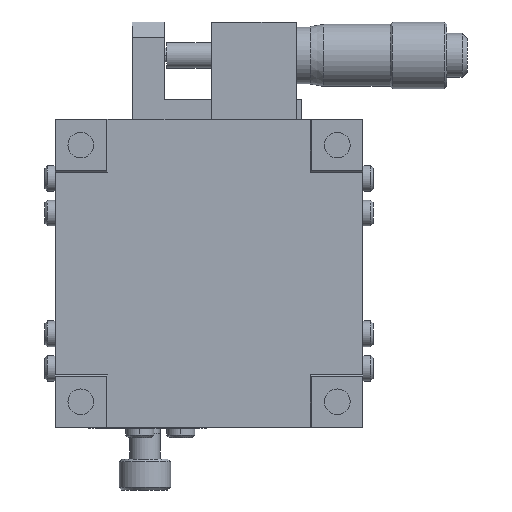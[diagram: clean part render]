
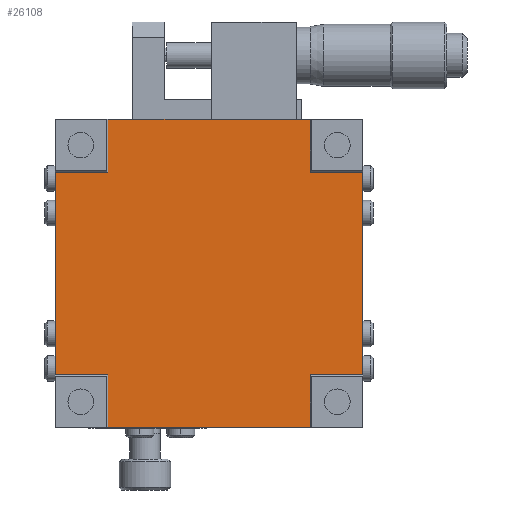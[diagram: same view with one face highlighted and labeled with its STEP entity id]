
A CAD part, front view. The second image highlights one B-rep face of the part: STEP entity #26108.
In plain terms, the highlighted planar face has unit normal (0, -1, 0).
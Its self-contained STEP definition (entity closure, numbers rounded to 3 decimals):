
#734 = DIRECTION ( 'NONE',  ( 0., 0., 1. ) ) ;
#735 = VECTOR ( 'NONE', #734, 1000. ) ;
#736 = CARTESIAN_POINT ( 'NONE',  ( -19.7, 0.3, -30. ) ) ;
#737 = LINE ( 'NONE', #736, #735 ) ;
#747 = CARTESIAN_POINT ( 'NONE',  ( -19.7, 0.3, -19.7 ) ) ;
#748 = CARTESIAN_POINT ( 'NONE',  ( 19.7, 0.3, -30. ) ) ;
#874 = DIRECTION ( 'NONE',  ( 0., 0., 1. ) ) ;
#875 = VECTOR ( 'NONE', #874, 1000. ) ;
#876 = CARTESIAN_POINT ( 'NONE',  ( 19.7, 0.3, -30. ) ) ;
#877 = LINE ( 'NONE', #876, #875 ) ;
#955 = CARTESIAN_POINT ( 'NONE',  ( 19.7, 0.3, 19.7 ) ) ;
#956 = CARTESIAN_POINT ( 'NONE',  ( 19.7, 0.3, 30. ) ) ;
#961 = DIRECTION ( 'NONE',  ( -1., 0., 0. ) ) ;
#962 = VECTOR ( 'NONE', #961, 1000. ) ;
#963 = CARTESIAN_POINT ( 'NONE',  ( 30., 0.3, -19.7 ) ) ;
#968 = LINE ( 'NONE', #963, #962 ) ;
#971 = CARTESIAN_POINT ( 'NONE',  ( -19.7, 0.3, 30. ) ) ;
#972 = CARTESIAN_POINT ( 'NONE',  ( -19.7, 0.3, 19.7 ) ) ;
#1007 = DIRECTION ( 'NONE',  ( 0., 0., 1. ) ) ;
#1008 = VECTOR ( 'NONE', #1007, 1000. ) ;
#1009 = CARTESIAN_POINT ( 'NONE',  ( -19.7, 0.3, -30. ) ) ;
#1010 = LINE ( 'NONE', #1009, #1008 ) ;
#1051 = DIRECTION ( 'NONE',  ( -1., 0., 0. ) ) ;
#1052 = VECTOR ( 'NONE', #1051, 1000. ) ;
#1053 = CARTESIAN_POINT ( 'NONE',  ( 30., 0.3, -19.7 ) ) ;
#1054 = LINE ( 'NONE', #1053, #1052 ) ;
#1057 = DIRECTION ( 'NONE',  ( -1., 0., 0. ) ) ;
#1059 = VECTOR ( 'NONE', #1057, 1000. ) ;
#1062 = CARTESIAN_POINT ( 'NONE',  ( 30., 0.3, 19.7 ) ) ;
#1063 = LINE ( 'NONE', #1062, #1059 ) ;
#1072 = DIRECTION ( 'NONE',  ( 0., 0., 1. ) ) ;
#1073 = VECTOR ( 'NONE', #1072, 1000. ) ;
#1074 = CARTESIAN_POINT ( 'NONE',  ( -30., 0.3, -49.335 ) ) ;
#1075 = LINE ( 'NONE', #1074, #1073 ) ;
#1177 = DIRECTION ( 'NONE',  ( 0., 0., 1. ) ) ;
#1179 = VECTOR ( 'NONE', #1177, 1000. ) ;
#1180 = CARTESIAN_POINT ( 'NONE',  ( 19.7, 0.3, -30. ) ) ;
#1181 = LINE ( 'NONE', #1180, #1179 ) ;
#1201 = DIRECTION ( 'NONE',  ( -1., 0., 0. ) ) ;
#1202 = VECTOR ( 'NONE', #1201, 1000. ) ;
#1203 = CARTESIAN_POINT ( 'NONE',  ( 30., 0.3, 19.7 ) ) ;
#1205 = LINE ( 'NONE', #1203, #1202 ) ;
#1254 = CARTESIAN_POINT ( 'NONE',  ( 19.7, 0.3, -19.7 ) ) ;
#1321 = CARTESIAN_POINT ( 'NONE',  ( -19.7, 0.3, -30. ) ) ;
#1648 = DIRECTION ( 'NONE',  ( -1., 0., 0. ) ) ;
#1649 = VECTOR ( 'NONE', #1648, 1000. ) ;
#1651 = CARTESIAN_POINT ( 'NONE',  ( 19.7, 0.3, 30. ) ) ;
#1653 = LINE ( 'NONE', #1651, #1649 ) ;
#1665 = DIRECTION ( 'NONE',  ( -1., 0., 0. ) ) ;
#1666 = VECTOR ( 'NONE', #1665, 1000. ) ;
#1667 = CARTESIAN_POINT ( 'NONE',  ( 19.7, 0.3, -30. ) ) ;
#1668 = LINE ( 'NONE', #1667, #1666 ) ;
#1694 = CARTESIAN_POINT ( 'NONE',  ( -30., 0.3, 19.7 ) ) ;
#1695 = CARTESIAN_POINT ( 'NONE',  ( -30., 0.3, -19.7 ) ) ;
#1696 = DIRECTION ( 'NONE',  ( 0., 0., -1. ) ) ;
#1697 = DIRECTION ( 'NONE',  ( 0., -1., 0. ) ) ;
#1698 = AXIS2_PLACEMENT_3D ( 'NONE', #1715, #1697, #1696 ) ;
#1715 = CARTESIAN_POINT ( 'NONE',  ( 30., 0.3, -49.335 ) ) ;
#1717 = PLANE ( 'NONE',  #1698 ) ;
#1722 = FACE_OUTER_BOUND ( 'NONE', #25992, .T. ) ;
#12984 = LINE ( 'NONE', #13010, #13009 ) ;
#13007 = CARTESIAN_POINT ( 'NONE',  ( 30., 0.3, -19.7 ) ) ;
#13008 = DIRECTION ( 'NONE',  ( 0., 0., 1. ) ) ;
#13009 = VECTOR ( 'NONE', #13008, 1000. ) ;
#13010 = CARTESIAN_POINT ( 'NONE',  ( 30., 0.3, -49.335 ) ) ;
#13054 = CARTESIAN_POINT ( 'NONE',  ( 30., 0.3, 19.7 ) ) ;
#21897 = EDGE_CURVE ( 'NONE', #21898, #22016, #12984, .T. ) ;
#21898 = VERTEX_POINT ( 'NONE', #13007 ) ;
#22016 = VERTEX_POINT ( 'NONE', #13054 ) ;
#25882 = VERTEX_POINT ( 'NONE', #972 ) ;
#25883 = VERTEX_POINT ( 'NONE', #971 ) ;
#25888 = EDGE_CURVE ( 'NONE', #21898, #25931, #968, .T. ) ;
#25891 = VERTEX_POINT ( 'NONE', #956 ) ;
#25892 = VERTEX_POINT ( 'NONE', #955 ) ;
#25909 = EDGE_CURVE ( 'NONE', #25910, #25931, #877, .T. ) ;
#25910 = VERTEX_POINT ( 'NONE', #748 ) ;
#25912 = VERTEX_POINT ( 'NONE', #747 ) ;
#25917 = EDGE_CURVE ( 'NONE', #25935, #25912, #737, .T. ) ;
#25931 = VERTEX_POINT ( 'NONE', #1254 ) ;
#25935 = VERTEX_POINT ( 'NONE', #1321 ) ;
#25940 = EDGE_CURVE ( 'NONE', #25882, #25883, #1010, .T. ) ;
#25955 = EDGE_CURVE ( 'NONE', #25892, #25891, #1181, .T. ) ;
#25961 = EDGE_CURVE ( 'NONE', #22016, #25892, #1205, .T. ) ;
#25992 = EDGE_LOOP ( 'NONE', ( #26110, #26003, #26106, #25998, #26000, #26001, #26107, #26076, #26129, #26105, #26128, #26120 ) ) ;
#25993 = EDGE_CURVE ( 'NONE', #26109, #26111, #1075, .T. ) ;
#25998 = ORIENTED_EDGE ( 'NONE', *, *, #25940, .F. ) ;
#25999 = EDGE_CURVE ( 'NONE', #25882, #26111, #1063, .T. ) ;
#26000 = ORIENTED_EDGE ( 'NONE', *, *, #25999, .T. ) ;
#26001 = ORIENTED_EDGE ( 'NONE', *, *, #25993, .F. ) ;
#26003 = ORIENTED_EDGE ( 'NONE', *, *, #25955, .T. ) ;
#26005 = EDGE_CURVE ( 'NONE', #25912, #26109, #1054, .T. ) ;
#26076 = ORIENTED_EDGE ( 'NONE', *, *, #25917, .F. ) ;
#26105 = ORIENTED_EDGE ( 'NONE', *, *, #25909, .T. ) ;
#26106 = ORIENTED_EDGE ( 'NONE', *, *, #26131, .T. ) ;
#26107 = ORIENTED_EDGE ( 'NONE', *, *, #26005, .F. ) ;
#26108 = ADVANCED_FACE ( 'NONE', ( #1722 ), #1717, .T. ) ;
#26109 = VERTEX_POINT ( 'NONE', #1695 ) ;
#26110 = ORIENTED_EDGE ( 'NONE', *, *, #25961, .T. ) ;
#26111 = VERTEX_POINT ( 'NONE', #1694 ) ;
#26120 = ORIENTED_EDGE ( 'NONE', *, *, #21897, .T. ) ;
#26122 = EDGE_CURVE ( 'NONE', #25910, #25935, #1668, .T. ) ;
#26128 = ORIENTED_EDGE ( 'NONE', *, *, #25888, .F. ) ;
#26129 = ORIENTED_EDGE ( 'NONE', *, *, #26122, .F. ) ;
#26131 = EDGE_CURVE ( 'NONE', #25891, #25883, #1653, .T. ) ;
